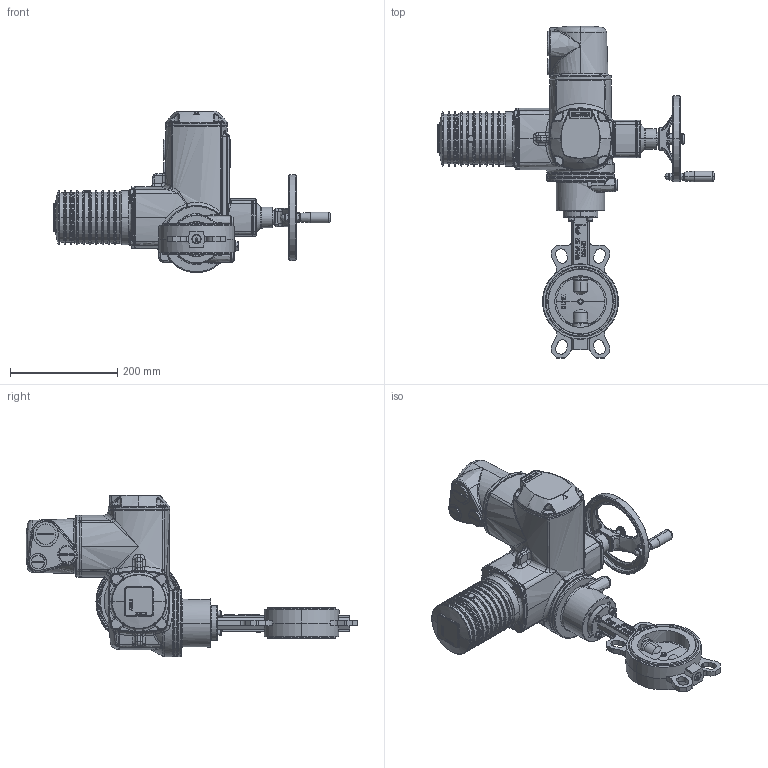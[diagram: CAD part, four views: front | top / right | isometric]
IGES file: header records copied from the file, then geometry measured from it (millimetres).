
Start section: SolidWorks IGES file using NURBS representation for surfaces
Global section: file name: H:\BE BIBLIOTHEQUE 3D\Projet_Biblio3D_2016\FSK\VPI\VPI-U04\VPI-U04 DN100.Igs; native system: SolidWorks 2014; preprocessor: SolidWorks 2014; author: a.cartier; date: 160929.181031; units: millimetre
Bounding box: 514.2 x 617.5 x 300.3 mm (x, y, z)
Volume: 8503805.5 mm3; surface area: 674045.7 mm2
Topology: 37 solids, 37 shells, 3531 faces, 8588 edges, 5107 vertices
Faces by surface type: bspline 3531
